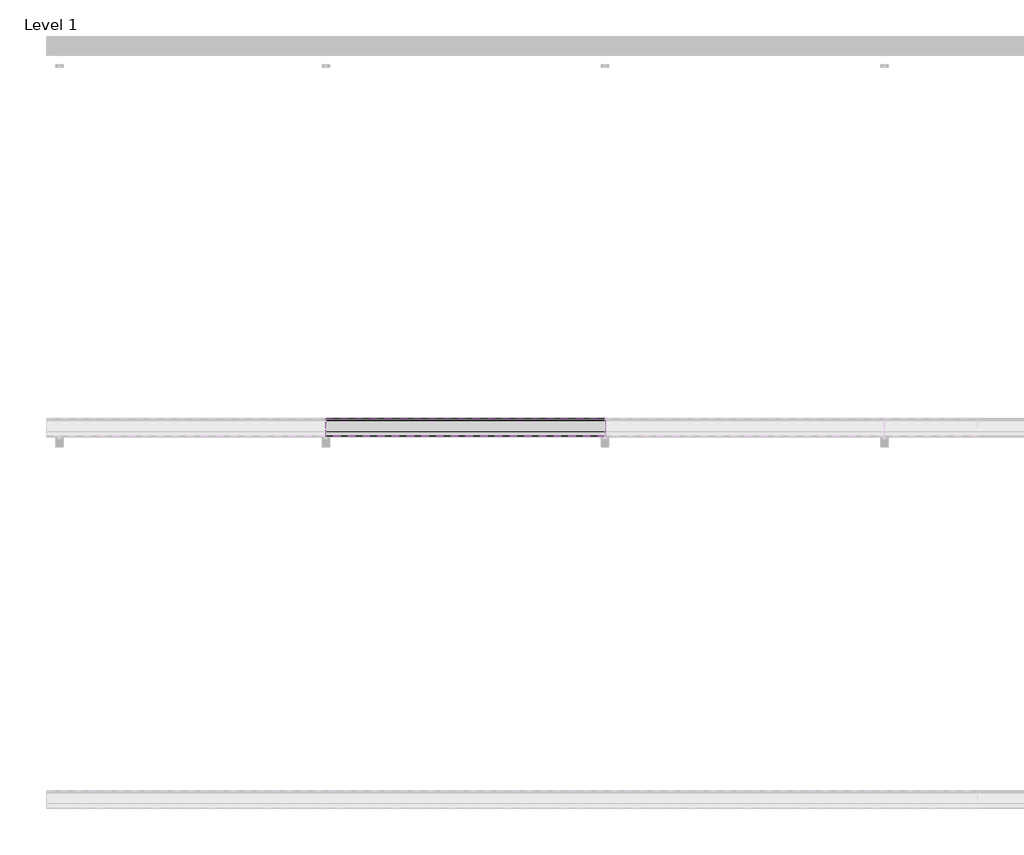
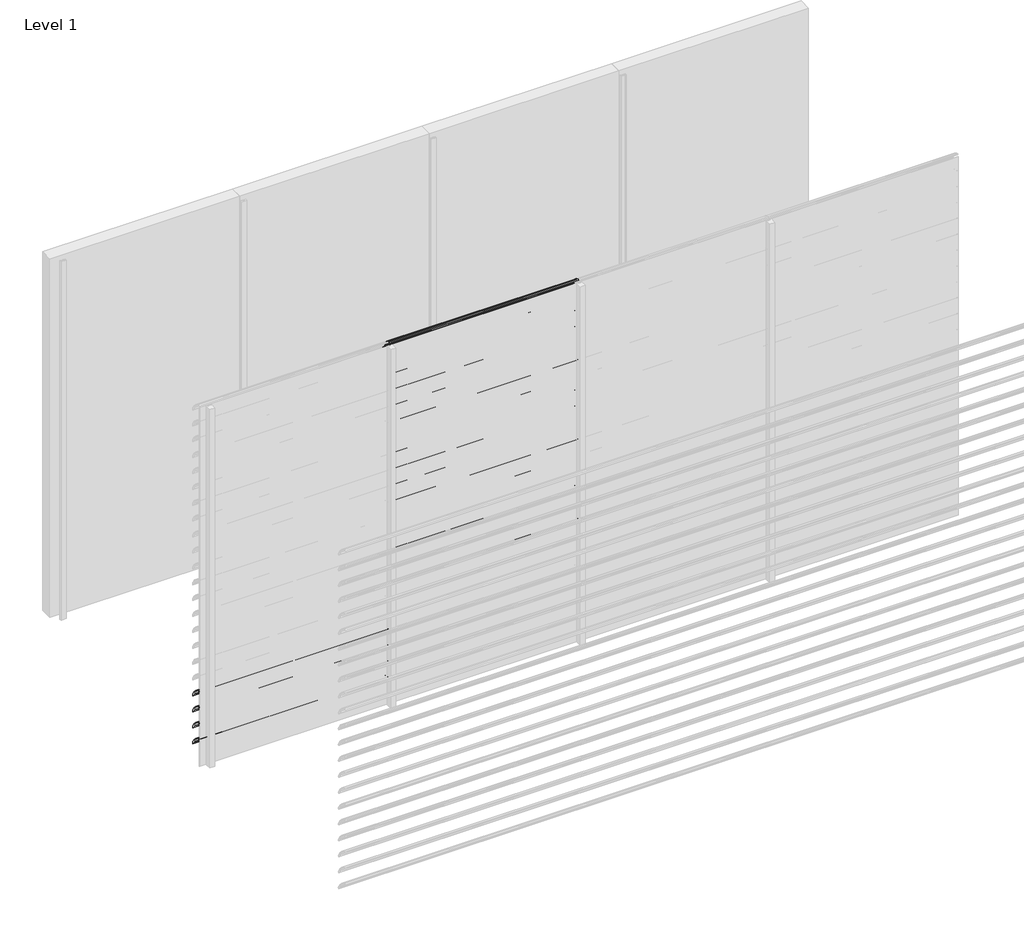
# One storey, part 27 of 57: 20 proxies.
"""IFC4 building model written with IfcOpenShell, lengths in millimetres."""

from ifc_helpers import new_model, si_unit, point, frame, frame_2d, origin, place, context, project, spatial, polyline, circle_curve, trimmed, segment, composite_curve, outline, extrude, element, save

model = new_model("IFC4")

# Units and contexts
model_context = context("Model", 3, world=origin())
ifc_project = project(units=[si_unit("LENGTHUNIT", "METRE", prefix="MILLI")], contexts=[model_context])

# Site, building, storey
site = spatial("IfcSite", under=ifc_project)
building = spatial("IfcBuilding", under=site)
storey = spatial("IfcBuildingStorey", under=building, Name="Level 1", Elevation=0.0)

# Proxies
placement = place(None, origin())
element("IfcBuildingElementProxy", 1, Name="Wall Sweeps", at=placement, inside=storey, context=model_context, shape_type="SweptSolid", body=[
    extrude(outline(composite_curve([segment(trimmed(circle_curve(frame_2d((-29993.7822526, 622.4913792)), 4.2177474), [point((-29989.6985606, 623.5462976))], [point((-29993.7822526, 626.7091266))], False, "CARTESIAN"), True, "CONTINUOUS"), segment(trimmed(circle_curve(frame_2d((-30018.7150834, 524.2536312)), 105.4456002), [point((-29993.7822526, 626.7091266))], [point((-29971.7914298, 618.6832099))], False, "CARTESIAN"), True, "CONTINUOUS"), segment(trimmed(circle_curve(frame_2d((-30061.7199745, 470.0352476)), 173.7335887), [point((-29971.7914298, 618.6832099))], [point((-29913.0720121, 559.9637922))], False, "CARTESIAN"), True, "CONTINUOUS"), segment(trimmed(circle_curve(frame_2d((-30004.9297178, 508.1860314)), 105.4456002), [point((-29913.0720121, 559.9637922))], [point((-29903.6249616, 537.4455765))], False, "CARTESIAN"), True, "CONTINUOUS"), segment(trimmed(circle_curve(frame_2d((-29907.809737, 536.3307305)), 4.3307305), [point((-29903.6249616, 537.4455765))], [point((-29909.0769196, 532.189538))], False, "CARTESIAN"), True, "CONTINUOUS"), segment(polyline([(-29909.0769196, 532.189538), (-29934.7401984, 556.9722783)]), True, "CONTINUOUS"), segment(trimmed(circle_curve(frame_2d((-29931.3879574, 559.2977626)), 4.079877), [point((-29934.7401984, 556.9722783))], [point((-29930.7310597, 563.3244091))], False, "CARTESIAN"), True, "CONTINUOUS"), segment(trimmed(circle_curve(frame_2d((-30014.6665585, 541.2544323)), 86.7885467), [point((-29930.7310597, 563.3244091))], [point((-29942.3028351, 589.1683485))], True, "CARTESIAN"), True, "CONTINUOUS"), segment(polyline([(-29942.3028351, 589.1683485), (-29940.7230099, 591.9046861)]), True, "CONTINUOUS"), segment(trimmed(circle_curve(frame_2d((-30061.7199745, 470.0352476)), 171.7335887), [point((-29940.7230099, 591.9046861))], [point((-29972.7555872, 616.9289618))], True, "CARTESIAN"), True, "CONTINUOUS"), segment(trimmed(circle_curve(frame_2d((-30018.7150834, 524.2536312)), 103.4456002), [point((-29972.7555872, 616.9289618))], [point((-29989.6985606, 623.5462976))], True, "CARTESIAN"), True, "CONTINUOUS")], self_intersect=False)), frame((0.0, 0.0, 0.0), z_axis=(1.0, 0.0, 0.0), x_axis=(0.0, 1.0, 0.0)), (0.0, 0.0, 1.0), 1500.0),
])
element("IfcBuildingElementProxy", 2, Name="Wall Sweeps", at=placement, inside=storey, context=model_context, shape_type="SweptSolid", body=[
    extrude(outline(composite_curve([segment(trimmed(circle_curve(frame_2d((-29993.7822526, 489.4913792)), 4.2177474), [point((-29989.6985606, 490.5462976))], [point((-29993.7822526, 493.7091266))], False, "CARTESIAN"), True, "CONTINUOUS"), segment(trimmed(circle_curve(frame_2d((-30018.7150834, 391.2536312)), 105.4456002), [point((-29993.7822526, 493.7091266))], [point((-29971.7914298, 485.6832099))], False, "CARTESIAN"), True, "CONTINUOUS"), segment(trimmed(circle_curve(frame_2d((-30061.7199745, 337.0352476)), 173.7335887), [point((-29971.7914298, 485.6832099))], [point((-29913.0720121, 426.9637922))], False, "CARTESIAN"), True, "CONTINUOUS"), segment(trimmed(circle_curve(frame_2d((-30004.9297178, 375.1860314)), 105.4456002), [point((-29913.0720121, 426.9637922))], [point((-29903.6249616, 404.4455765))], False, "CARTESIAN"), True, "CONTINUOUS"), segment(trimmed(circle_curve(frame_2d((-29907.809737, 403.3307305)), 4.3307305), [point((-29903.6249616, 404.4455765))], [point((-29909.0769196, 399.189538))], False, "CARTESIAN"), True, "CONTINUOUS"), segment(polyline([(-29909.0769196, 399.189538), (-29934.7401984, 423.9722783)]), True, "CONTINUOUS"), segment(trimmed(circle_curve(frame_2d((-29931.3879574, 426.2977626)), 4.079877), [point((-29934.7401984, 423.9722783))], [point((-29930.7310597, 430.3244091))], False, "CARTESIAN"), True, "CONTINUOUS"), segment(trimmed(circle_curve(frame_2d((-30014.6665585, 408.2544323)), 86.7885467), [point((-29930.7310597, 430.3244091))], [point((-29942.3028351, 456.1683485))], True, "CARTESIAN"), True, "CONTINUOUS"), segment(polyline([(-29942.3028351, 456.1683485), (-29940.7230099, 458.9046861)]), True, "CONTINUOUS"), segment(trimmed(circle_curve(frame_2d((-30061.7199745, 337.0352476)), 171.7335887), [point((-29940.7230099, 458.9046861))], [point((-29972.7555872, 483.9289618))], True, "CARTESIAN"), True, "CONTINUOUS"), segment(trimmed(circle_curve(frame_2d((-30018.7150834, 391.2536312)), 103.4456002), [point((-29972.7555872, 483.9289618))], [point((-29989.6985606, 490.5462976))], True, "CARTESIAN"), True, "CONTINUOUS")], self_intersect=False)), frame((0.0, 0.0, 0.0), z_axis=(1.0, 0.0, 0.0), x_axis=(0.0, 1.0, 0.0)), (0.0, 0.0, 1.0), 1500.0),
])
element("IfcBuildingElementProxy", 3, Name="Wall Sweeps", at=placement, inside=storey, context=model_context, shape_type="SweptSolid", body=[
    extrude(outline(composite_curve([segment(trimmed(circle_curve(frame_2d((-29993.7822526, 356.4913792)), 4.2177474), [point((-29989.6985606, 357.5462976))], [point((-29993.7822526, 360.7091266))], False, "CARTESIAN"), True, "CONTINUOUS"), segment(trimmed(circle_curve(frame_2d((-30018.7150834, 258.2536312)), 105.4456002), [point((-29993.7822526, 360.7091266))], [point((-29971.7914298, 352.6832099))], False, "CARTESIAN"), True, "CONTINUOUS"), segment(trimmed(circle_curve(frame_2d((-30061.7199745, 204.0352476)), 173.7335887), [point((-29971.7914298, 352.6832099))], [point((-29913.0720121, 293.9637922))], False, "CARTESIAN"), True, "CONTINUOUS"), segment(trimmed(circle_curve(frame_2d((-30004.9297178, 242.1860314)), 105.4456002), [point((-29913.0720121, 293.9637922))], [point((-29903.6249616, 271.4455765))], False, "CARTESIAN"), True, "CONTINUOUS"), segment(trimmed(circle_curve(frame_2d((-29907.809737, 270.3307305)), 4.3307305), [point((-29903.6249616, 271.4455765))], [point((-29909.0769196, 266.189538))], False, "CARTESIAN"), True, "CONTINUOUS"), segment(polyline([(-29909.0769196, 266.189538), (-29934.7401984, 290.9722783)]), True, "CONTINUOUS"), segment(trimmed(circle_curve(frame_2d((-29931.3879574, 293.2977626)), 4.079877), [point((-29934.7401984, 290.9722783))], [point((-29930.7310597, 297.3244091))], False, "CARTESIAN"), True, "CONTINUOUS"), segment(trimmed(circle_curve(frame_2d((-30014.6665585, 275.2544323)), 86.7885467), [point((-29930.7310597, 297.3244091))], [point((-29942.3028351, 323.1683485))], True, "CARTESIAN"), True, "CONTINUOUS"), segment(polyline([(-29942.3028351, 323.1683485), (-29940.7230099, 325.9046861)]), True, "CONTINUOUS"), segment(trimmed(circle_curve(frame_2d((-30061.7199745, 204.0352476)), 171.7335887), [point((-29940.7230099, 325.9046861))], [point((-29972.7555872, 350.9289618))], True, "CARTESIAN"), True, "CONTINUOUS"), segment(trimmed(circle_curve(frame_2d((-30018.7150834, 258.2536312)), 103.4456002), [point((-29972.7555872, 350.9289618))], [point((-29989.6985606, 357.5462976))], True, "CARTESIAN"), True, "CONTINUOUS")], self_intersect=False)), frame((0.0, 0.0, 0.0), z_axis=(1.0, 0.0, 0.0), x_axis=(0.0, 1.0, 0.0)), (0.0, 0.0, 1.0), 1500.0),
])
element("IfcBuildingElementProxy", 4, Name="Wall Sweeps", at=placement, inside=storey, context=model_context, shape_type="SweptSolid", body=[
    extrude(outline(composite_curve([segment(trimmed(circle_curve(frame_2d((-29993.7822526, 223.4913792)), 4.2177474), [point((-29989.6985606, 224.5462976))], [point((-29993.7822526, 227.7091266))], False, "CARTESIAN"), True, "CONTINUOUS"), segment(trimmed(circle_curve(frame_2d((-30018.7150834, 125.2536312)), 105.4456002), [point((-29993.7822526, 227.7091266))], [point((-29971.7914298, 219.6832099))], False, "CARTESIAN"), True, "CONTINUOUS"), segment(trimmed(circle_curve(frame_2d((-30061.7199745, 71.0352476)), 173.7335887), [point((-29971.7914298, 219.6832099))], [point((-29913.0720121, 160.9637922))], False, "CARTESIAN"), True, "CONTINUOUS"), segment(trimmed(circle_curve(frame_2d((-30004.9297178, 109.1860314)), 105.4456002), [point((-29913.0720121, 160.9637922))], [point((-29903.6249616, 138.4455765))], False, "CARTESIAN"), True, "CONTINUOUS"), segment(trimmed(circle_curve(frame_2d((-29907.809737, 137.3307305)), 4.3307305), [point((-29903.6249616, 138.4455765))], [point((-29909.0769196, 133.189538))], False, "CARTESIAN"), True, "CONTINUOUS"), segment(polyline([(-29909.0769196, 133.189538), (-29934.7401984, 157.9722783)]), True, "CONTINUOUS"), segment(trimmed(circle_curve(frame_2d((-29931.3879574, 160.2977626)), 4.079877), [point((-29934.7401984, 157.9722783))], [point((-29930.7310597, 164.3244091))], False, "CARTESIAN"), True, "CONTINUOUS"), segment(trimmed(circle_curve(frame_2d((-30014.6665585, 142.2544323)), 86.7885467), [point((-29930.7310597, 164.3244091))], [point((-29942.3028351, 190.1683485))], True, "CARTESIAN"), True, "CONTINUOUS"), segment(polyline([(-29942.3028351, 190.1683485), (-29940.7230099, 192.9046861)]), True, "CONTINUOUS"), segment(trimmed(circle_curve(frame_2d((-30061.7199745, 71.0352476)), 171.7335887), [point((-29940.7230099, 192.9046861))], [point((-29972.7555872, 217.9289618))], True, "CARTESIAN"), True, "CONTINUOUS"), segment(trimmed(circle_curve(frame_2d((-30018.7150834, 125.2536312)), 103.4456002), [point((-29972.7555872, 217.9289618))], [point((-29989.6985606, 224.5462976))], True, "CARTESIAN"), True, "CONTINUOUS")], self_intersect=False)), frame((0.0, 0.0, 0.0), z_axis=(1.0, 0.0, 0.0), x_axis=(0.0, 1.0, 0.0)), (0.0, 0.0, 1.0), 1500.0),
])
element("IfcBuildingElementProxy", 5, Name="Wall Sweeps", at=placement, inside=storey, context=model_context, shape_type="SweptSolid", body=[
    extrude(outline(composite_curve([segment(trimmed(circle_curve(frame_2d((-29993.7822526, 3016.4913792)), 4.2177474), [point((-29989.6985606, 3017.5462976))], [point((-29993.7822526, 3020.7091266))], False, "CARTESIAN"), True, "CONTINUOUS"), segment(trimmed(circle_curve(frame_2d((-30018.7150834, 2918.2536312)), 105.4456002), [point((-29993.7822526, 3020.7091266))], [point((-29971.7914298, 3012.6832099))], False, "CARTESIAN"), True, "CONTINUOUS"), segment(trimmed(circle_curve(frame_2d((-30061.7199745, 2864.0352476)), 173.7335887), [point((-29971.7914298, 3012.6832099))], [point((-29913.0720121, 2953.9637922))], False, "CARTESIAN"), True, "CONTINUOUS"), segment(trimmed(circle_curve(frame_2d((-30004.9297178, 2902.1860314)), 105.4456002), [point((-29913.0720121, 2953.9637922))], [point((-29903.6249616, 2931.4455765))], False, "CARTESIAN"), True, "CONTINUOUS"), segment(trimmed(circle_curve(frame_2d((-29907.809737, 2930.3307305)), 4.3307305), [point((-29903.6249616, 2931.4455765))], [point((-29909.0769196, 2926.189538))], False, "CARTESIAN"), True, "CONTINUOUS"), segment(polyline([(-29909.0769196, 2926.189538), (-29934.7401984, 2950.9722783)]), True, "CONTINUOUS"), segment(trimmed(circle_curve(frame_2d((-29931.3879574, 2953.2977626)), 4.079877), [point((-29934.7401984, 2950.9722783))], [point((-29930.7310597, 2957.3244091))], False, "CARTESIAN"), True, "CONTINUOUS"), segment(trimmed(circle_curve(frame_2d((-30014.6665585, 2935.2544323)), 86.7885467), [point((-29930.7310597, 2957.3244091))], [point((-29942.3028351, 2983.1683485))], True, "CARTESIAN"), True, "CONTINUOUS"), segment(polyline([(-29942.3028351, 2983.1683485), (-29940.7230099, 2985.9046861)]), True, "CONTINUOUS"), segment(trimmed(circle_curve(frame_2d((-30061.7199745, 2864.0352476)), 171.7335887), [point((-29940.7230099, 2985.9046861))], [point((-29972.7555872, 3010.9289618))], True, "CARTESIAN"), True, "CONTINUOUS"), segment(trimmed(circle_curve(frame_2d((-30018.7150834, 2918.2536312)), 103.4456002), [point((-29972.7555872, 3010.9289618))], [point((-29989.6985606, 3017.5462976))], True, "CARTESIAN"), True, "CONTINUOUS")], self_intersect=False)), frame((1500.0, 0.0, 0.0), z_axis=(1.0, 0.0, 0.0), x_axis=(0.0, 1.0, 0.0)), (0.0, 0.0, 1.0), 1500.0),
])
element("IfcBuildingElementProxy", 6, Name="Wall Sweeps", at=placement, inside=storey, context=model_context, shape_type="SweptSolid", body=[
    extrude(outline(composite_curve([segment(trimmed(circle_curve(frame_2d((-29993.7822526, 2883.4913792)), 4.2177474), [point((-29989.6985606, 2884.5462976))], [point((-29993.7822526, 2887.7091266))], False, "CARTESIAN"), True, "CONTINUOUS"), segment(trimmed(circle_curve(frame_2d((-30018.7150834, 2785.2536312)), 105.4456002), [point((-29993.7822526, 2887.7091266))], [point((-29971.7914298, 2879.6832099))], False, "CARTESIAN"), True, "CONTINUOUS"), segment(trimmed(circle_curve(frame_2d((-30061.7199745, 2731.0352476)), 173.7335887), [point((-29971.7914298, 2879.6832099))], [point((-29913.0720121, 2820.9637922))], False, "CARTESIAN"), True, "CONTINUOUS"), segment(trimmed(circle_curve(frame_2d((-30004.9297178, 2769.1860314)), 105.4456002), [point((-29913.0720121, 2820.9637922))], [point((-29903.6249616, 2798.4455765))], False, "CARTESIAN"), True, "CONTINUOUS"), segment(trimmed(circle_curve(frame_2d((-29907.809737, 2797.3307305)), 4.3307305), [point((-29903.6249616, 2798.4455765))], [point((-29909.0769196, 2793.189538))], False, "CARTESIAN"), True, "CONTINUOUS"), segment(polyline([(-29909.0769196, 2793.189538), (-29934.7401984, 2817.9722783)]), True, "CONTINUOUS"), segment(trimmed(circle_curve(frame_2d((-29931.3879574, 2820.2977626)), 4.079877), [point((-29934.7401984, 2817.9722783))], [point((-29930.7310597, 2824.3244091))], False, "CARTESIAN"), True, "CONTINUOUS"), segment(trimmed(circle_curve(frame_2d((-30014.6665585, 2802.2544323)), 86.7885467), [point((-29930.7310597, 2824.3244091))], [point((-29942.3028351, 2850.1683485))], True, "CARTESIAN"), True, "CONTINUOUS"), segment(polyline([(-29942.3028351, 2850.1683485), (-29940.7230099, 2852.9046861)]), True, "CONTINUOUS"), segment(trimmed(circle_curve(frame_2d((-30061.7199745, 2731.0352476)), 171.7335887), [point((-29940.7230099, 2852.9046861))], [point((-29972.7555872, 2877.9289618))], True, "CARTESIAN"), True, "CONTINUOUS"), segment(trimmed(circle_curve(frame_2d((-30018.7150834, 2785.2536312)), 103.4456002), [point((-29972.7555872, 2877.9289618))], [point((-29989.6985606, 2884.5462976))], True, "CARTESIAN"), True, "CONTINUOUS")], self_intersect=False)), frame((1500.0, 0.0, 0.0), z_axis=(1.0, 0.0, 0.0), x_axis=(0.0, 1.0, 0.0)), (0.0, 0.0, 1.0), 1500.0),
])
element("IfcBuildingElementProxy", 7, Name="Wall Sweeps", at=placement, inside=storey, context=model_context, shape_type="SweptSolid", body=[
    extrude(outline(composite_curve([segment(trimmed(circle_curve(frame_2d((-29993.7822526, 2750.4913792)), 4.2177474), [point((-29989.6985606, 2751.5462976))], [point((-29993.7822526, 2754.7091266))], False, "CARTESIAN"), True, "CONTINUOUS"), segment(trimmed(circle_curve(frame_2d((-30018.7150834, 2652.2536312)), 105.4456002), [point((-29993.7822526, 2754.7091266))], [point((-29971.7914298, 2746.6832099))], False, "CARTESIAN"), True, "CONTINUOUS"), segment(trimmed(circle_curve(frame_2d((-30061.7199745, 2598.0352476)), 173.7335887), [point((-29971.7914298, 2746.6832099))], [point((-29913.0720121, 2687.9637922))], False, "CARTESIAN"), True, "CONTINUOUS"), segment(trimmed(circle_curve(frame_2d((-30004.9297178, 2636.1860314)), 105.4456002), [point((-29913.0720121, 2687.9637922))], [point((-29903.6249616, 2665.4455765))], False, "CARTESIAN"), True, "CONTINUOUS"), segment(trimmed(circle_curve(frame_2d((-29907.809737, 2664.3307305)), 4.3307305), [point((-29903.6249616, 2665.4455765))], [point((-29909.0769196, 2660.189538))], False, "CARTESIAN"), True, "CONTINUOUS"), segment(polyline([(-29909.0769196, 2660.189538), (-29934.7401984, 2684.9722783)]), True, "CONTINUOUS"), segment(trimmed(circle_curve(frame_2d((-29931.3879574, 2687.2977626)), 4.079877), [point((-29934.7401984, 2684.9722783))], [point((-29930.7310597, 2691.3244091))], False, "CARTESIAN"), True, "CONTINUOUS"), segment(trimmed(circle_curve(frame_2d((-30014.6665585, 2669.2544323)), 86.7885467), [point((-29930.7310597, 2691.3244091))], [point((-29942.3028351, 2717.1683485))], True, "CARTESIAN"), True, "CONTINUOUS"), segment(polyline([(-29942.3028351, 2717.1683485), (-29940.7230099, 2719.9046861)]), True, "CONTINUOUS"), segment(trimmed(circle_curve(frame_2d((-30061.7199745, 2598.0352476)), 171.7335887), [point((-29940.7230099, 2719.9046861))], [point((-29972.7555872, 2744.9289618))], True, "CARTESIAN"), True, "CONTINUOUS"), segment(trimmed(circle_curve(frame_2d((-30018.7150834, 2652.2536312)), 103.4456002), [point((-29972.7555872, 2744.9289618))], [point((-29989.6985606, 2751.5462976))], True, "CARTESIAN"), True, "CONTINUOUS")], self_intersect=False)), frame((1500.0, 0.0, 0.0), z_axis=(1.0, 0.0, 0.0), x_axis=(0.0, 1.0, 0.0)), (0.0, 0.0, 1.0), 1500.0),
])
element("IfcBuildingElementProxy", 8, Name="Wall Sweeps", at=placement, inside=storey, context=model_context, shape_type="SweptSolid", body=[
    extrude(outline(composite_curve([segment(trimmed(circle_curve(frame_2d((-29993.7822526, 2617.4913792)), 4.2177474), [point((-29989.6985606, 2618.5462976))], [point((-29993.7822526, 2621.7091266))], False, "CARTESIAN"), True, "CONTINUOUS"), segment(trimmed(circle_curve(frame_2d((-30018.7150834, 2519.2536312)), 105.4456002), [point((-29993.7822526, 2621.7091266))], [point((-29971.7914298, 2613.6832099))], False, "CARTESIAN"), True, "CONTINUOUS"), segment(trimmed(circle_curve(frame_2d((-30061.7199745, 2465.0352476)), 173.7335887), [point((-29971.7914298, 2613.6832099))], [point((-29913.0720121, 2554.9637922))], False, "CARTESIAN"), True, "CONTINUOUS"), segment(trimmed(circle_curve(frame_2d((-30004.9297178, 2503.1860314)), 105.4456002), [point((-29913.0720121, 2554.9637922))], [point((-29903.6249616, 2532.4455765))], False, "CARTESIAN"), True, "CONTINUOUS"), segment(trimmed(circle_curve(frame_2d((-29907.809737, 2531.3307305)), 4.3307305), [point((-29903.6249616, 2532.4455765))], [point((-29909.0769196, 2527.189538))], False, "CARTESIAN"), True, "CONTINUOUS"), segment(polyline([(-29909.0769196, 2527.189538), (-29934.7401984, 2551.9722783)]), True, "CONTINUOUS"), segment(trimmed(circle_curve(frame_2d((-29931.3879574, 2554.2977626)), 4.079877), [point((-29934.7401984, 2551.9722783))], [point((-29930.7310597, 2558.3244091))], False, "CARTESIAN"), True, "CONTINUOUS"), segment(trimmed(circle_curve(frame_2d((-30014.6665585, 2536.2544323)), 86.7885467), [point((-29930.7310597, 2558.3244091))], [point((-29942.3028351, 2584.1683485))], True, "CARTESIAN"), True, "CONTINUOUS"), segment(polyline([(-29942.3028351, 2584.1683485), (-29940.7230099, 2586.9046861)]), True, "CONTINUOUS"), segment(trimmed(circle_curve(frame_2d((-30061.7199745, 2465.0352476)), 171.7335887), [point((-29940.7230099, 2586.9046861))], [point((-29972.7555872, 2611.9289618))], True, "CARTESIAN"), True, "CONTINUOUS"), segment(trimmed(circle_curve(frame_2d((-30018.7150834, 2519.2536312)), 103.4456002), [point((-29972.7555872, 2611.9289618))], [point((-29989.6985606, 2618.5462976))], True, "CARTESIAN"), True, "CONTINUOUS")], self_intersect=False)), frame((1500.0, 0.0, 0.0), z_axis=(1.0, 0.0, 0.0), x_axis=(0.0, 1.0, 0.0)), (0.0, 0.0, 1.0), 1500.0),
])
element("IfcBuildingElementProxy", 9, Name="Wall Sweeps", at=placement, inside=storey, context=model_context, shape_type="SweptSolid", body=[
    extrude(outline(composite_curve([segment(trimmed(circle_curve(frame_2d((-29993.7822526, 2484.4913792)), 4.2177474), [point((-29989.6985606, 2485.5462976))], [point((-29993.7822526, 2488.7091266))], False, "CARTESIAN"), True, "CONTINUOUS"), segment(trimmed(circle_curve(frame_2d((-30018.7150834, 2386.2536312)), 105.4456002), [point((-29993.7822526, 2488.7091266))], [point((-29971.7914298, 2480.6832099))], False, "CARTESIAN"), True, "CONTINUOUS"), segment(trimmed(circle_curve(frame_2d((-30061.7199745, 2332.0352476)), 173.7335887), [point((-29971.7914298, 2480.6832099))], [point((-29913.0720121, 2421.9637922))], False, "CARTESIAN"), True, "CONTINUOUS"), segment(trimmed(circle_curve(frame_2d((-30004.9297178, 2370.1860314)), 105.4456002), [point((-29913.0720121, 2421.9637922))], [point((-29903.6249616, 2399.4455765))], False, "CARTESIAN"), True, "CONTINUOUS"), segment(trimmed(circle_curve(frame_2d((-29907.809737, 2398.3307305)), 4.3307305), [point((-29903.6249616, 2399.4455765))], [point((-29909.0769196, 2394.189538))], False, "CARTESIAN"), True, "CONTINUOUS"), segment(polyline([(-29909.0769196, 2394.189538), (-29934.7401984, 2418.9722783)]), True, "CONTINUOUS"), segment(trimmed(circle_curve(frame_2d((-29931.3879574, 2421.2977626)), 4.079877), [point((-29934.7401984, 2418.9722783))], [point((-29930.7310597, 2425.3244091))], False, "CARTESIAN"), True, "CONTINUOUS"), segment(trimmed(circle_curve(frame_2d((-30014.6665585, 2403.2544323)), 86.7885467), [point((-29930.7310597, 2425.3244091))], [point((-29942.3028351, 2451.1683485))], True, "CARTESIAN"), True, "CONTINUOUS"), segment(polyline([(-29942.3028351, 2451.1683485), (-29940.7230099, 2453.9046861)]), True, "CONTINUOUS"), segment(trimmed(circle_curve(frame_2d((-30061.7199745, 2332.0352476)), 171.7335887), [point((-29940.7230099, 2453.9046861))], [point((-29972.7555872, 2478.9289618))], True, "CARTESIAN"), True, "CONTINUOUS"), segment(trimmed(circle_curve(frame_2d((-30018.7150834, 2386.2536312)), 103.4456002), [point((-29972.7555872, 2478.9289618))], [point((-29989.6985606, 2485.5462976))], True, "CARTESIAN"), True, "CONTINUOUS")], self_intersect=False)), frame((1500.0, 0.0, 0.0), z_axis=(1.0, 0.0, 0.0), x_axis=(0.0, 1.0, 0.0)), (0.0, 0.0, 1.0), 1500.0),
])
element("IfcBuildingElementProxy", 10, Name="Wall Sweeps", at=placement, inside=storey, context=model_context, shape_type="SweptSolid", body=[
    extrude(outline(composite_curve([segment(trimmed(circle_curve(frame_2d((-29993.7822526, 2351.4913792)), 4.2177474), [point((-29989.6985606, 2352.5462976))], [point((-29993.7822526, 2355.7091266))], False, "CARTESIAN"), True, "CONTINUOUS"), segment(trimmed(circle_curve(frame_2d((-30018.7150834, 2253.2536312)), 105.4456002), [point((-29993.7822526, 2355.7091266))], [point((-29971.7914298, 2347.6832099))], False, "CARTESIAN"), True, "CONTINUOUS"), segment(trimmed(circle_curve(frame_2d((-30061.7199745, 2199.0352476)), 173.7335887), [point((-29971.7914298, 2347.6832099))], [point((-29913.0720121, 2288.9637922))], False, "CARTESIAN"), True, "CONTINUOUS"), segment(trimmed(circle_curve(frame_2d((-30004.9297178, 2237.1860314)), 105.4456002), [point((-29913.0720121, 2288.9637922))], [point((-29903.6249616, 2266.4455765))], False, "CARTESIAN"), True, "CONTINUOUS"), segment(trimmed(circle_curve(frame_2d((-29907.809737, 2265.3307305)), 4.3307305), [point((-29903.6249616, 2266.4455765))], [point((-29909.0769196, 2261.189538))], False, "CARTESIAN"), True, "CONTINUOUS"), segment(polyline([(-29909.0769196, 2261.189538), (-29934.7401984, 2285.9722783)]), True, "CONTINUOUS"), segment(trimmed(circle_curve(frame_2d((-29931.3879574, 2288.2977626)), 4.079877), [point((-29934.7401984, 2285.9722783))], [point((-29930.7310597, 2292.3244091))], False, "CARTESIAN"), True, "CONTINUOUS"), segment(trimmed(circle_curve(frame_2d((-30014.6665585, 2270.2544323)), 86.7885467), [point((-29930.7310597, 2292.3244091))], [point((-29942.3028351, 2318.1683485))], True, "CARTESIAN"), True, "CONTINUOUS"), segment(polyline([(-29942.3028351, 2318.1683485), (-29940.7230099, 2320.9046861)]), True, "CONTINUOUS"), segment(trimmed(circle_curve(frame_2d((-30061.7199745, 2199.0352476)), 171.7335887), [point((-29940.7230099, 2320.9046861))], [point((-29972.7555872, 2345.9289618))], True, "CARTESIAN"), True, "CONTINUOUS"), segment(trimmed(circle_curve(frame_2d((-30018.7150834, 2253.2536312)), 103.4456002), [point((-29972.7555872, 2345.9289618))], [point((-29989.6985606, 2352.5462976))], True, "CARTESIAN"), True, "CONTINUOUS")], self_intersect=False)), frame((1500.0, 0.0, 0.0), z_axis=(1.0, 0.0, 0.0), x_axis=(0.0, 1.0, 0.0)), (0.0, 0.0, 1.0), 1500.0),
])
element("IfcBuildingElementProxy", 11, Name="Wall Sweeps", at=placement, inside=storey, context=model_context, shape_type="SweptSolid", body=[
    extrude(outline(composite_curve([segment(trimmed(circle_curve(frame_2d((-29993.7822526, 2218.4913792)), 4.2177474), [point((-29989.6985606, 2219.5462976))], [point((-29993.7822526, 2222.7091266))], False, "CARTESIAN"), True, "CONTINUOUS"), segment(trimmed(circle_curve(frame_2d((-30018.7150834, 2120.2536312)), 105.4456002), [point((-29993.7822526, 2222.7091266))], [point((-29971.7914298, 2214.6832099))], False, "CARTESIAN"), True, "CONTINUOUS"), segment(trimmed(circle_curve(frame_2d((-30061.7199745, 2066.0352476)), 173.7335887), [point((-29971.7914298, 2214.6832099))], [point((-29913.0720121, 2155.9637922))], False, "CARTESIAN"), True, "CONTINUOUS"), segment(trimmed(circle_curve(frame_2d((-30004.9297178, 2104.1860314)), 105.4456002), [point((-29913.0720121, 2155.9637922))], [point((-29903.6249616, 2133.4455765))], False, "CARTESIAN"), True, "CONTINUOUS"), segment(trimmed(circle_curve(frame_2d((-29907.809737, 2132.3307305)), 4.3307305), [point((-29903.6249616, 2133.4455765))], [point((-29909.0769196, 2128.189538))], False, "CARTESIAN"), True, "CONTINUOUS"), segment(polyline([(-29909.0769196, 2128.189538), (-29934.7401984, 2152.9722783)]), True, "CONTINUOUS"), segment(trimmed(circle_curve(frame_2d((-29931.3879574, 2155.2977626)), 4.079877), [point((-29934.7401984, 2152.9722783))], [point((-29930.7310597, 2159.3244091))], False, "CARTESIAN"), True, "CONTINUOUS"), segment(trimmed(circle_curve(frame_2d((-30014.6665585, 2137.2544323)), 86.7885467), [point((-29930.7310597, 2159.3244091))], [point((-29942.3028351, 2185.1683485))], True, "CARTESIAN"), True, "CONTINUOUS"), segment(polyline([(-29942.3028351, 2185.1683485), (-29940.7230099, 2187.9046861)]), True, "CONTINUOUS"), segment(trimmed(circle_curve(frame_2d((-30061.7199745, 2066.0352476)), 171.7335887), [point((-29940.7230099, 2187.9046861))], [point((-29972.7555872, 2212.9289618))], True, "CARTESIAN"), True, "CONTINUOUS"), segment(trimmed(circle_curve(frame_2d((-30018.7150834, 2120.2536312)), 103.4456002), [point((-29972.7555872, 2212.9289618))], [point((-29989.6985606, 2219.5462976))], True, "CARTESIAN"), True, "CONTINUOUS")], self_intersect=False)), frame((1500.0, 0.0, 0.0), z_axis=(1.0, 0.0, 0.0), x_axis=(0.0, 1.0, 0.0)), (0.0, 0.0, 1.0), 1500.0),
])
element("IfcBuildingElementProxy", 12, Name="Wall Sweeps", at=placement, inside=storey, context=model_context, shape_type="SweptSolid", body=[
    extrude(outline(composite_curve([segment(trimmed(circle_curve(frame_2d((-29993.7822526, 2085.4913792)), 4.2177474), [point((-29989.6985606, 2086.5462976))], [point((-29993.7822526, 2089.7091266))], False, "CARTESIAN"), True, "CONTINUOUS"), segment(trimmed(circle_curve(frame_2d((-30018.7150834, 1987.2536312)), 105.4456002), [point((-29993.7822526, 2089.7091266))], [point((-29971.7914298, 2081.6832099))], False, "CARTESIAN"), True, "CONTINUOUS"), segment(trimmed(circle_curve(frame_2d((-30061.7199745, 1933.0352476)), 173.7335887), [point((-29971.7914298, 2081.6832099))], [point((-29913.0720121, 2022.9637922))], False, "CARTESIAN"), True, "CONTINUOUS"), segment(trimmed(circle_curve(frame_2d((-30004.9297178, 1971.1860314)), 105.4456002), [point((-29913.0720121, 2022.9637922))], [point((-29903.6249616, 2000.4455765))], False, "CARTESIAN"), True, "CONTINUOUS"), segment(trimmed(circle_curve(frame_2d((-29907.809737, 1999.3307305)), 4.3307305), [point((-29903.6249616, 2000.4455765))], [point((-29909.0769196, 1995.189538))], False, "CARTESIAN"), True, "CONTINUOUS"), segment(polyline([(-29909.0769196, 1995.189538), (-29934.7401984, 2019.9722783)]), True, "CONTINUOUS"), segment(trimmed(circle_curve(frame_2d((-29931.3879574, 2022.2977626)), 4.079877), [point((-29934.7401984, 2019.9722783))], [point((-29930.7310597, 2026.3244091))], False, "CARTESIAN"), True, "CONTINUOUS"), segment(trimmed(circle_curve(frame_2d((-30014.6665585, 2004.2544323)), 86.7885467), [point((-29930.7310597, 2026.3244091))], [point((-29942.3028351, 2052.1683485))], True, "CARTESIAN"), True, "CONTINUOUS"), segment(polyline([(-29942.3028351, 2052.1683485), (-29940.7230099, 2054.9046861)]), True, "CONTINUOUS"), segment(trimmed(circle_curve(frame_2d((-30061.7199745, 1933.0352476)), 171.7335887), [point((-29940.7230099, 2054.9046861))], [point((-29972.7555872, 2079.9289618))], True, "CARTESIAN"), True, "CONTINUOUS"), segment(trimmed(circle_curve(frame_2d((-30018.7150834, 1987.2536312)), 103.4456002), [point((-29972.7555872, 2079.9289618))], [point((-29989.6985606, 2086.5462976))], True, "CARTESIAN"), True, "CONTINUOUS")], self_intersect=False)), frame((1500.0, 0.0, 0.0), z_axis=(1.0, 0.0, 0.0), x_axis=(0.0, 1.0, 0.0)), (0.0, 0.0, 1.0), 1500.0),
])
element("IfcBuildingElementProxy", 13, Name="Wall Sweeps", at=placement, inside=storey, context=model_context, shape_type="SweptSolid", body=[
    extrude(outline(composite_curve([segment(trimmed(circle_curve(frame_2d((-29993.7822526, 1952.4913792)), 4.2177474), [point((-29989.6985606, 1953.5462976))], [point((-29993.7822526, 1956.7091266))], False, "CARTESIAN"), True, "CONTINUOUS"), segment(trimmed(circle_curve(frame_2d((-30018.7150834, 1854.2536312)), 105.4456002), [point((-29993.7822526, 1956.7091266))], [point((-29971.7914298, 1948.6832099))], False, "CARTESIAN"), True, "CONTINUOUS"), segment(trimmed(circle_curve(frame_2d((-30061.7199745, 1800.0352476)), 173.7335887), [point((-29971.7914298, 1948.6832099))], [point((-29913.0720121, 1889.9637922))], False, "CARTESIAN"), True, "CONTINUOUS"), segment(trimmed(circle_curve(frame_2d((-30004.9297178, 1838.1860314)), 105.4456002), [point((-29913.0720121, 1889.9637922))], [point((-29903.6249616, 1867.4455765))], False, "CARTESIAN"), True, "CONTINUOUS"), segment(trimmed(circle_curve(frame_2d((-29907.809737, 1866.3307305)), 4.3307305), [point((-29903.6249616, 1867.4455765))], [point((-29909.0769196, 1862.189538))], False, "CARTESIAN"), True, "CONTINUOUS"), segment(polyline([(-29909.0769196, 1862.189538), (-29934.7401984, 1886.9722783)]), True, "CONTINUOUS"), segment(trimmed(circle_curve(frame_2d((-29931.3879574, 1889.2977626)), 4.079877), [point((-29934.7401984, 1886.9722783))], [point((-29930.7310597, 1893.3244091))], False, "CARTESIAN"), True, "CONTINUOUS"), segment(trimmed(circle_curve(frame_2d((-30014.6665585, 1871.2544323)), 86.7885467), [point((-29930.7310597, 1893.3244091))], [point((-29942.3028351, 1919.1683485))], True, "CARTESIAN"), True, "CONTINUOUS"), segment(polyline([(-29942.3028351, 1919.1683485), (-29940.7230099, 1921.9046861)]), True, "CONTINUOUS"), segment(trimmed(circle_curve(frame_2d((-30061.7199745, 1800.0352476)), 171.7335887), [point((-29940.7230099, 1921.9046861))], [point((-29972.7555872, 1946.9289618))], True, "CARTESIAN"), True, "CONTINUOUS"), segment(trimmed(circle_curve(frame_2d((-30018.7150834, 1854.2536312)), 103.4456002), [point((-29972.7555872, 1946.9289618))], [point((-29989.6985606, 1953.5462976))], True, "CARTESIAN"), True, "CONTINUOUS")], self_intersect=False)), frame((1500.0, 0.0, 0.0), z_axis=(1.0, 0.0, 0.0), x_axis=(0.0, 1.0, 0.0)), (0.0, 0.0, 1.0), 1500.0),
])
element("IfcBuildingElementProxy", 14, Name="Wall Sweeps", at=placement, inside=storey, context=model_context, shape_type="SweptSolid", body=[
    extrude(outline(composite_curve([segment(trimmed(circle_curve(frame_2d((-29993.7822526, 1819.4913792)), 4.2177474), [point((-29989.6985606, 1820.5462976))], [point((-29993.7822526, 1823.7091266))], False, "CARTESIAN"), True, "CONTINUOUS"), segment(trimmed(circle_curve(frame_2d((-30018.7150834, 1721.2536312)), 105.4456002), [point((-29993.7822526, 1823.7091266))], [point((-29971.7914298, 1815.6832099))], False, "CARTESIAN"), True, "CONTINUOUS"), segment(trimmed(circle_curve(frame_2d((-30061.7199745, 1667.0352476)), 173.7335887), [point((-29971.7914298, 1815.6832099))], [point((-29913.0720121, 1756.9637922))], False, "CARTESIAN"), True, "CONTINUOUS"), segment(trimmed(circle_curve(frame_2d((-30004.9297178, 1705.1860314)), 105.4456002), [point((-29913.0720121, 1756.9637922))], [point((-29903.6249616, 1734.4455765))], False, "CARTESIAN"), True, "CONTINUOUS"), segment(trimmed(circle_curve(frame_2d((-29907.809737, 1733.3307305)), 4.3307305), [point((-29903.6249616, 1734.4455765))], [point((-29909.0769196, 1729.189538))], False, "CARTESIAN"), True, "CONTINUOUS"), segment(polyline([(-29909.0769196, 1729.189538), (-29934.7401984, 1753.9722783)]), True, "CONTINUOUS"), segment(trimmed(circle_curve(frame_2d((-29931.3879574, 1756.2977626)), 4.079877), [point((-29934.7401984, 1753.9722783))], [point((-29930.7310597, 1760.3244091))], False, "CARTESIAN"), True, "CONTINUOUS"), segment(trimmed(circle_curve(frame_2d((-30014.6665585, 1738.2544323)), 86.7885467), [point((-29930.7310597, 1760.3244091))], [point((-29942.3028351, 1786.1683485))], True, "CARTESIAN"), True, "CONTINUOUS"), segment(polyline([(-29942.3028351, 1786.1683485), (-29940.7230099, 1788.9046861)]), True, "CONTINUOUS"), segment(trimmed(circle_curve(frame_2d((-30061.7199745, 1667.0352476)), 171.7335887), [point((-29940.7230099, 1788.9046861))], [point((-29972.7555872, 1813.9289618))], True, "CARTESIAN"), True, "CONTINUOUS"), segment(trimmed(circle_curve(frame_2d((-30018.7150834, 1721.2536312)), 103.4456002), [point((-29972.7555872, 1813.9289618))], [point((-29989.6985606, 1820.5462976))], True, "CARTESIAN"), True, "CONTINUOUS")], self_intersect=False)), frame((1500.0, 0.0, 0.0), z_axis=(1.0, 0.0, 0.0), x_axis=(0.0, 1.0, 0.0)), (0.0, 0.0, 1.0), 1500.0),
])
element("IfcBuildingElementProxy", 15, Name="Wall Sweeps", at=placement, inside=storey, context=model_context, shape_type="SweptSolid", body=[
    extrude(outline(composite_curve([segment(trimmed(circle_curve(frame_2d((-29993.7822526, 1686.4913792)), 4.2177474), [point((-29989.6985606, 1687.5462976))], [point((-29993.7822526, 1690.7091266))], False, "CARTESIAN"), True, "CONTINUOUS"), segment(trimmed(circle_curve(frame_2d((-30018.7150834, 1588.2536312)), 105.4456002), [point((-29993.7822526, 1690.7091266))], [point((-29971.7914298, 1682.6832099))], False, "CARTESIAN"), True, "CONTINUOUS"), segment(trimmed(circle_curve(frame_2d((-30061.7199745, 1534.0352476)), 173.7335887), [point((-29971.7914298, 1682.6832099))], [point((-29913.0720121, 1623.9637922))], False, "CARTESIAN"), True, "CONTINUOUS"), segment(trimmed(circle_curve(frame_2d((-30004.9297178, 1572.1860314)), 105.4456002), [point((-29913.0720121, 1623.9637922))], [point((-29903.6249616, 1601.4455765))], False, "CARTESIAN"), True, "CONTINUOUS"), segment(trimmed(circle_curve(frame_2d((-29907.809737, 1600.3307305)), 4.3307305), [point((-29903.6249616, 1601.4455765))], [point((-29909.0769196, 1596.189538))], False, "CARTESIAN"), True, "CONTINUOUS"), segment(polyline([(-29909.0769196, 1596.189538), (-29934.7401984, 1620.9722783)]), True, "CONTINUOUS"), segment(trimmed(circle_curve(frame_2d((-29931.3879574, 1623.2977626)), 4.079877), [point((-29934.7401984, 1620.9722783))], [point((-29930.7310597, 1627.3244091))], False, "CARTESIAN"), True, "CONTINUOUS"), segment(trimmed(circle_curve(frame_2d((-30014.6665585, 1605.2544323)), 86.7885467), [point((-29930.7310597, 1627.3244091))], [point((-29942.3028351, 1653.1683485))], True, "CARTESIAN"), True, "CONTINUOUS"), segment(polyline([(-29942.3028351, 1653.1683485), (-29940.7230099, 1655.9046861)]), True, "CONTINUOUS"), segment(trimmed(circle_curve(frame_2d((-30061.7199745, 1534.0352476)), 171.7335887), [point((-29940.7230099, 1655.9046861))], [point((-29972.7555872, 1680.9289618))], True, "CARTESIAN"), True, "CONTINUOUS"), segment(trimmed(circle_curve(frame_2d((-30018.7150834, 1588.2536312)), 103.4456002), [point((-29972.7555872, 1680.9289618))], [point((-29989.6985606, 1687.5462976))], True, "CARTESIAN"), True, "CONTINUOUS")], self_intersect=False)), frame((1500.0, 0.0, 0.0), z_axis=(1.0, 0.0, 0.0), x_axis=(0.0, 1.0, 0.0)), (0.0, 0.0, 1.0), 1500.0),
])
element("IfcBuildingElementProxy", 16, Name="Wall Sweeps", at=placement, inside=storey, context=model_context, shape_type="SweptSolid", body=[
    extrude(outline(composite_curve([segment(trimmed(circle_curve(frame_2d((-29993.7822526, 1553.4913792)), 4.2177474), [point((-29989.6985606, 1554.5462976))], [point((-29993.7822526, 1557.7091266))], False, "CARTESIAN"), True, "CONTINUOUS"), segment(trimmed(circle_curve(frame_2d((-30018.7150834, 1455.2536312)), 105.4456002), [point((-29993.7822526, 1557.7091266))], [point((-29971.7914298, 1549.6832099))], False, "CARTESIAN"), True, "CONTINUOUS"), segment(trimmed(circle_curve(frame_2d((-30061.7199745, 1401.0352476)), 173.7335887), [point((-29971.7914298, 1549.6832099))], [point((-29913.0720121, 1490.9637922))], False, "CARTESIAN"), True, "CONTINUOUS"), segment(trimmed(circle_curve(frame_2d((-30004.9297178, 1439.1860314)), 105.4456002), [point((-29913.0720121, 1490.9637922))], [point((-29903.6249616, 1468.4455765))], False, "CARTESIAN"), True, "CONTINUOUS"), segment(trimmed(circle_curve(frame_2d((-29907.809737, 1467.3307305)), 4.3307305), [point((-29903.6249616, 1468.4455765))], [point((-29909.0769196, 1463.189538))], False, "CARTESIAN"), True, "CONTINUOUS"), segment(polyline([(-29909.0769196, 1463.189538), (-29934.7401984, 1487.9722783)]), True, "CONTINUOUS"), segment(trimmed(circle_curve(frame_2d((-29931.3879574, 1490.2977626)), 4.079877), [point((-29934.7401984, 1487.9722783))], [point((-29930.7310597, 1494.3244091))], False, "CARTESIAN"), True, "CONTINUOUS"), segment(trimmed(circle_curve(frame_2d((-30014.6665585, 1472.2544323)), 86.7885467), [point((-29930.7310597, 1494.3244091))], [point((-29942.3028351, 1520.1683485))], True, "CARTESIAN"), True, "CONTINUOUS"), segment(polyline([(-29942.3028351, 1520.1683485), (-29940.7230099, 1522.9046861)]), True, "CONTINUOUS"), segment(trimmed(circle_curve(frame_2d((-30061.7199745, 1401.0352476)), 171.7335887), [point((-29940.7230099, 1522.9046861))], [point((-29972.7555872, 1547.9289618))], True, "CARTESIAN"), True, "CONTINUOUS"), segment(trimmed(circle_curve(frame_2d((-30018.7150834, 1455.2536312)), 103.4456002), [point((-29972.7555872, 1547.9289618))], [point((-29989.6985606, 1554.5462976))], True, "CARTESIAN"), True, "CONTINUOUS")], self_intersect=False)), frame((1500.0, 0.0, 0.0), z_axis=(1.0, 0.0, 0.0), x_axis=(0.0, 1.0, 0.0)), (0.0, 0.0, 1.0), 1500.0),
])
element("IfcBuildingElementProxy", 17, Name="Wall Sweeps", at=placement, inside=storey, context=model_context, shape_type="SweptSolid", body=[
    extrude(outline(composite_curve([segment(trimmed(circle_curve(frame_2d((-29993.7822526, 1420.4913792)), 4.2177474), [point((-29989.6985606, 1421.5462976))], [point((-29993.7822526, 1424.7091266))], False, "CARTESIAN"), True, "CONTINUOUS"), segment(trimmed(circle_curve(frame_2d((-30018.7150834, 1322.2536312)), 105.4456002), [point((-29993.7822526, 1424.7091266))], [point((-29971.7914298, 1416.6832099))], False, "CARTESIAN"), True, "CONTINUOUS"), segment(trimmed(circle_curve(frame_2d((-30061.7199745, 1268.0352476)), 173.7335887), [point((-29971.7914298, 1416.6832099))], [point((-29913.0720121, 1357.9637922))], False, "CARTESIAN"), True, "CONTINUOUS"), segment(trimmed(circle_curve(frame_2d((-30004.9297178, 1306.1860314)), 105.4456002), [point((-29913.0720121, 1357.9637922))], [point((-29903.6249616, 1335.4455765))], False, "CARTESIAN"), True, "CONTINUOUS"), segment(trimmed(circle_curve(frame_2d((-29907.809737, 1334.3307305)), 4.3307305), [point((-29903.6249616, 1335.4455765))], [point((-29909.0769196, 1330.189538))], False, "CARTESIAN"), True, "CONTINUOUS"), segment(polyline([(-29909.0769196, 1330.189538), (-29934.7401984, 1354.9722783)]), True, "CONTINUOUS"), segment(trimmed(circle_curve(frame_2d((-29931.3879574, 1357.2977626)), 4.079877), [point((-29934.7401984, 1354.9722783))], [point((-29930.7310597, 1361.3244091))], False, "CARTESIAN"), True, "CONTINUOUS"), segment(trimmed(circle_curve(frame_2d((-30014.6665585, 1339.2544323)), 86.7885467), [point((-29930.7310597, 1361.3244091))], [point((-29942.3028351, 1387.1683485))], True, "CARTESIAN"), True, "CONTINUOUS"), segment(polyline([(-29942.3028351, 1387.1683485), (-29940.7230099, 1389.9046861)]), True, "CONTINUOUS"), segment(trimmed(circle_curve(frame_2d((-30061.7199745, 1268.0352476)), 171.7335887), [point((-29940.7230099, 1389.9046861))], [point((-29972.7555872, 1414.9289618))], True, "CARTESIAN"), True, "CONTINUOUS"), segment(trimmed(circle_curve(frame_2d((-30018.7150834, 1322.2536312)), 103.4456002), [point((-29972.7555872, 1414.9289618))], [point((-29989.6985606, 1421.5462976))], True, "CARTESIAN"), True, "CONTINUOUS")], self_intersect=False)), frame((1500.0, 0.0, 0.0), z_axis=(1.0, 0.0, 0.0), x_axis=(0.0, 1.0, 0.0)), (0.0, 0.0, 1.0), 1500.0),
])
element("IfcBuildingElementProxy", 18, Name="Wall Sweeps", at=placement, inside=storey, context=model_context, shape_type="SweptSolid", body=[
    extrude(outline(composite_curve([segment(trimmed(circle_curve(frame_2d((-29993.7822526, 1287.4913792)), 4.2177474), [point((-29989.6985606, 1288.5462976))], [point((-29993.7822526, 1291.7091266))], False, "CARTESIAN"), True, "CONTINUOUS"), segment(trimmed(circle_curve(frame_2d((-30018.7150834, 1189.2536312)), 105.4456002), [point((-29993.7822526, 1291.7091266))], [point((-29971.7914298, 1283.6832099))], False, "CARTESIAN"), True, "CONTINUOUS"), segment(trimmed(circle_curve(frame_2d((-30061.7199745, 1135.0352476)), 173.7335887), [point((-29971.7914298, 1283.6832099))], [point((-29913.0720121, 1224.9637922))], False, "CARTESIAN"), True, "CONTINUOUS"), segment(trimmed(circle_curve(frame_2d((-30004.9297178, 1173.1860314)), 105.4456002), [point((-29913.0720121, 1224.9637922))], [point((-29903.6249616, 1202.4455765))], False, "CARTESIAN"), True, "CONTINUOUS"), segment(trimmed(circle_curve(frame_2d((-29907.809737, 1201.3307305)), 4.3307305), [point((-29903.6249616, 1202.4455765))], [point((-29909.0769196, 1197.189538))], False, "CARTESIAN"), True, "CONTINUOUS"), segment(polyline([(-29909.0769196, 1197.189538), (-29934.7401984, 1221.9722783)]), True, "CONTINUOUS"), segment(trimmed(circle_curve(frame_2d((-29931.3879574, 1224.2977626)), 4.079877), [point((-29934.7401984, 1221.9722783))], [point((-29930.7310597, 1228.3244091))], False, "CARTESIAN"), True, "CONTINUOUS"), segment(trimmed(circle_curve(frame_2d((-30014.6665585, 1206.2544323)), 86.7885467), [point((-29930.7310597, 1228.3244091))], [point((-29942.3028351, 1254.1683485))], True, "CARTESIAN"), True, "CONTINUOUS"), segment(polyline([(-29942.3028351, 1254.1683485), (-29940.7230099, 1256.9046861)]), True, "CONTINUOUS"), segment(trimmed(circle_curve(frame_2d((-30061.7199745, 1135.0352476)), 171.7335887), [point((-29940.7230099, 1256.9046861))], [point((-29972.7555872, 1281.9289618))], True, "CARTESIAN"), True, "CONTINUOUS"), segment(trimmed(circle_curve(frame_2d((-30018.7150834, 1189.2536312)), 103.4456002), [point((-29972.7555872, 1281.9289618))], [point((-29989.6985606, 1288.5462976))], True, "CARTESIAN"), True, "CONTINUOUS")], self_intersect=False)), frame((1500.0, 0.0, 0.0), z_axis=(1.0, 0.0, 0.0), x_axis=(0.0, 1.0, 0.0)), (0.0, 0.0, 1.0), 1500.0),
])
element("IfcBuildingElementProxy", 19, Name="Wall Sweeps", at=placement, inside=storey, context=model_context, shape_type="SweptSolid", body=[
    extrude(outline(composite_curve([segment(trimmed(circle_curve(frame_2d((-29993.7822526, 1154.4913792)), 4.2177474), [point((-29989.6985606, 1155.5462976))], [point((-29993.7822526, 1158.7091266))], False, "CARTESIAN"), True, "CONTINUOUS"), segment(trimmed(circle_curve(frame_2d((-30018.7150834, 1056.2536312)), 105.4456002), [point((-29993.7822526, 1158.7091266))], [point((-29971.7914298, 1150.6832099))], False, "CARTESIAN"), True, "CONTINUOUS"), segment(trimmed(circle_curve(frame_2d((-30061.7199745, 1002.0352476)), 173.7335887), [point((-29971.7914298, 1150.6832099))], [point((-29913.0720121, 1091.9637922))], False, "CARTESIAN"), True, "CONTINUOUS"), segment(trimmed(circle_curve(frame_2d((-30004.9297178, 1040.1860314)), 105.4456002), [point((-29913.0720121, 1091.9637922))], [point((-29903.6249616, 1069.4455765))], False, "CARTESIAN"), True, "CONTINUOUS"), segment(trimmed(circle_curve(frame_2d((-29907.809737, 1068.3307305)), 4.3307305), [point((-29903.6249616, 1069.4455765))], [point((-29909.0769196, 1064.189538))], False, "CARTESIAN"), True, "CONTINUOUS"), segment(polyline([(-29909.0769196, 1064.189538), (-29934.7401984, 1088.9722783)]), True, "CONTINUOUS"), segment(trimmed(circle_curve(frame_2d((-29931.3879574, 1091.2977626)), 4.079877), [point((-29934.7401984, 1088.9722783))], [point((-29930.7310597, 1095.3244091))], False, "CARTESIAN"), True, "CONTINUOUS"), segment(trimmed(circle_curve(frame_2d((-30014.6665585, 1073.2544323)), 86.7885467), [point((-29930.7310597, 1095.3244091))], [point((-29942.3028351, 1121.1683485))], True, "CARTESIAN"), True, "CONTINUOUS"), segment(polyline([(-29942.3028351, 1121.1683485), (-29940.7230099, 1123.9046861)]), True, "CONTINUOUS"), segment(trimmed(circle_curve(frame_2d((-30061.7199745, 1002.0352476)), 171.7335887), [point((-29940.7230099, 1123.9046861))], [point((-29972.7555872, 1148.9289618))], True, "CARTESIAN"), True, "CONTINUOUS"), segment(trimmed(circle_curve(frame_2d((-30018.7150834, 1056.2536312)), 103.4456002), [point((-29972.7555872, 1148.9289618))], [point((-29989.6985606, 1155.5462976))], True, "CARTESIAN"), True, "CONTINUOUS")], self_intersect=False)), frame((1500.0, 0.0, 0.0), z_axis=(1.0, 0.0, 0.0), x_axis=(0.0, 1.0, 0.0)), (0.0, 0.0, 1.0), 1500.0),
])
element("IfcBuildingElementProxy", 20, Name="Wall Sweeps", at=placement, inside=storey, context=model_context, shape_type="SweptSolid", body=[
    extrude(outline(composite_curve([segment(trimmed(circle_curve(frame_2d((-29993.7822526, 1021.4913792)), 4.2177474), [point((-29989.6985606, 1022.5462976))], [point((-29993.7822526, 1025.7091266))], False, "CARTESIAN"), True, "CONTINUOUS"), segment(trimmed(circle_curve(frame_2d((-30018.7150834, 923.2536312)), 105.4456002), [point((-29993.7822526, 1025.7091266))], [point((-29971.7914298, 1017.6832099))], False, "CARTESIAN"), True, "CONTINUOUS"), segment(trimmed(circle_curve(frame_2d((-30061.7199745, 869.0352476)), 173.7335887), [point((-29971.7914298, 1017.6832099))], [point((-29913.0720121, 958.9637922))], False, "CARTESIAN"), True, "CONTINUOUS"), segment(trimmed(circle_curve(frame_2d((-30004.9297178, 907.1860314)), 105.4456002), [point((-29913.0720121, 958.9637922))], [point((-29903.6249616, 936.4455765))], False, "CARTESIAN"), True, "CONTINUOUS"), segment(trimmed(circle_curve(frame_2d((-29907.809737, 935.3307305)), 4.3307305), [point((-29903.6249616, 936.4455765))], [point((-29909.0769196, 931.189538))], False, "CARTESIAN"), True, "CONTINUOUS"), segment(polyline([(-29909.0769196, 931.189538), (-29934.7401984, 955.9722783)]), True, "CONTINUOUS"), segment(trimmed(circle_curve(frame_2d((-29931.3879574, 958.2977626)), 4.079877), [point((-29934.7401984, 955.9722783))], [point((-29930.7310597, 962.3244091))], False, "CARTESIAN"), True, "CONTINUOUS"), segment(trimmed(circle_curve(frame_2d((-30014.6665585, 940.2544323)), 86.7885467), [point((-29930.7310597, 962.3244091))], [point((-29942.3028351, 988.1683485))], True, "CARTESIAN"), True, "CONTINUOUS"), segment(polyline([(-29942.3028351, 988.1683485), (-29940.7230099, 990.9046861)]), True, "CONTINUOUS"), segment(trimmed(circle_curve(frame_2d((-30061.7199745, 869.0352476)), 171.7335887), [point((-29940.7230099, 990.9046861))], [point((-29972.7555872, 1015.9289618))], True, "CARTESIAN"), True, "CONTINUOUS"), segment(trimmed(circle_curve(frame_2d((-30018.7150834, 923.2536312)), 103.4456002), [point((-29972.7555872, 1015.9289618))], [point((-29989.6985606, 1022.5462976))], True, "CARTESIAN"), True, "CONTINUOUS")], self_intersect=False)), frame((1500.0, 0.0, 0.0), z_axis=(1.0, 0.0, 0.0), x_axis=(0.0, 1.0, 0.0)), (0.0, 0.0, 1.0), 1500.0),
])

save(model, "model.ifc")
